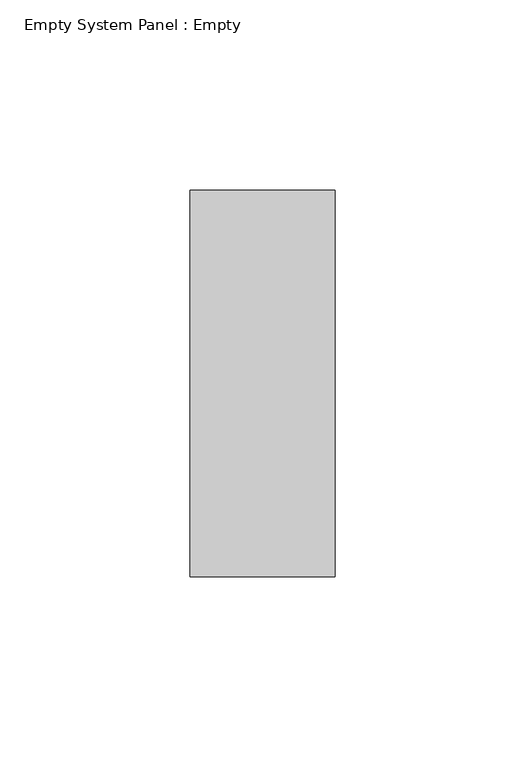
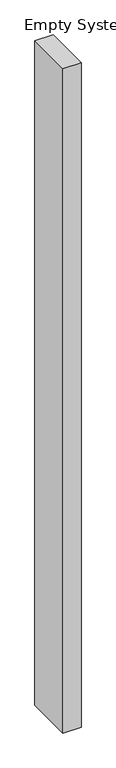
"""IFC4 building model written with IfcOpenShell, lengths in millimetres: plate geometry, Empty System Panel : Empty."""

from ifc_helpers import new_model, si_unit, origin, origin_with_axes, place, context, project, spatial, polyline, outline, extrude, source, transform, mapped, element, save


def empty_system_panel_empty_275ea992(model_context):
    return source(origin(), model_context, "Body", "SweptSolid", [
        extrude(outline(polyline([(19.05, -50.8), (-19.05, -50.8), (-19.05, 50.8), (19.05, 50.8), (19.05, -50.8)])), origin_with_axes(), (0.0, 0.0, 1.0), 1473.2),
    ])


if __name__ == "__main__":
    model = new_model("IFC4")
    model_context = context("Model", 3, world=origin())
    ifc_project = project(units=[si_unit("LENGTHUNIT", "METRE", prefix="MILLI")], contexts=[model_context])
    site = spatial("IfcSite", under=ifc_project)
    building = spatial("IfcBuilding", under=site)
    placement = place(None, origin())
    empty_system_panel_empty_shape = empty_system_panel_empty_275ea992(model_context)
    element("IfcPlate", 1, ObjectType="Empty System Panel : Empty", at=placement, inside=building, context=model_context, shape_type="MappedRepresentation", body=[
        mapped(empty_system_panel_empty_shape, transform((0.0, 0.0, 0.0), x_axis=(1.0, 0.0, 0.0), y_axis=(0.0, 1.0, 0.0), z_axis=(0.0, 0.0, 1.0))),
    ])
    save(model, "model.ifc")
